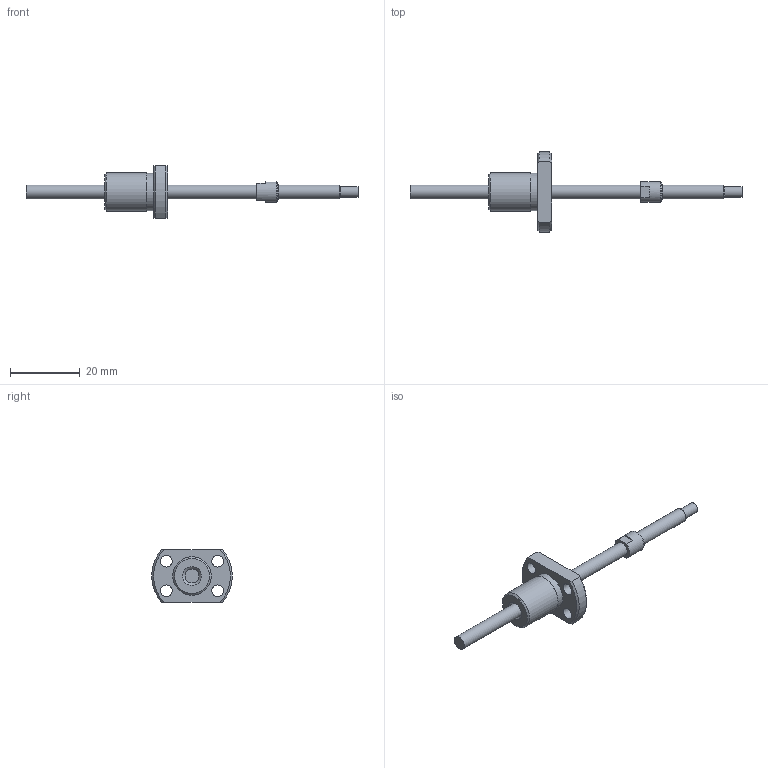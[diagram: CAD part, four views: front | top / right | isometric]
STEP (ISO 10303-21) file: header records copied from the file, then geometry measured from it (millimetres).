
FILE_DESCRIPTION(/* description */ ('STEP AP214'),/* implementation_level */ '2;1');
FILE_NAME(/* name */ 'NSGF0401Z-063R095C3-0-T-S-T-A-(22.5-S)',/* time_stamp */ '2026-08-24T20:00:53+02:00',/* author */ ('License CC BY-ND 4.0'),/* organization */ ('CADENAS'),/* preprocessor_version */ 'ST-DEVELOPER v20',/* originating_system */ 'PARTsolutions',/* authorisation */ ' ');
FILE_SCHEMA (('AUTOMOTIVE_DESIGN {1 0 10303 214 3 1 1}'));
Length unit declared in the file: millimetre
Products named in the file (3): NSGF0401Z-063R095C3-0-T-S-T-A-(22.5-S); NSG0401Z-63R9518_(T-S_T-A_2)_2; NSGF0401Z-23R23C3-0_(__2.5_1_S)-1
Assembly tree (2 placements, depth 2):
  NSGF0401Z-063R095C3-0-T-S-T-A-(22.5-S)
    NSG0401Z-63R9518_(T-S_T-A_2)_2
    NSGF0401Z-23R23C3-0_(__2.5_1_S)-1
Bounding box: 95 x 22.93 x 15 mm (x, y, z)
Volume: 3283.3 mm3; surface area: 2918.7 mm2
Topology: 2 solids, 2 shells, 38 faces, 84 edges, 55 vertices
Faces by surface type: plane 15, cylinder 13, cone 9, torus 1
Full cylindrical faces by diameter (mm): 3 x1, 3.4 x4, 4 x3, 6 x1, 10.75 x1, 11 x1
Entity records: 1045 total; most frequent: CARTESIAN_POINT 179, DIRECTION 176, ORIENTED_EDGE 126, AXIS2_PLACEMENT_3D 80, EDGE_LOOP 70, FACE_BOUND 70, EDGE_CURVE 63, VERTEX_POINT 51
